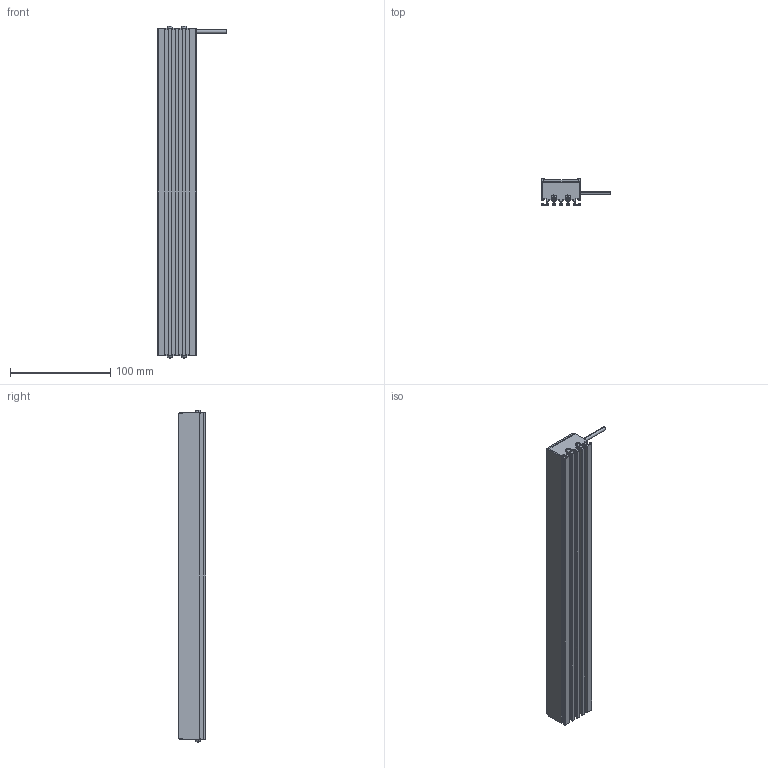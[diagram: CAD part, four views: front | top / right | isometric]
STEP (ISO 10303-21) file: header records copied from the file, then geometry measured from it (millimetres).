
FILE_DESCRIPTION((''),'2;1');
FILE_NAME('MV-LLDS-327-38_ASM','2020-12-30T',('Administrator'),(''),'PRO/ENGINEER BY PARAMETRIC TECHNOLOGY CORPORATION, 2010100','PRO/ENGINEER BY PARAMETRIC TECHNOLOGY CORPORATION, 2010100','');
FILE_SCHEMA(('CONFIG_CONTROL_DESIGN'));
Length unit declared in the file: millimetre
Products named in the file (3): BL-6_5_; M3-5_3; MV-LLDS-327-38_ASM
Assembly tree (5 placements, depth 2):
  MV-LLDS-327-38_ASM
    BL-6_5_
    M3-5_3  x4
Bounding box: 68 x 27 x 331.68 mm (x, y, z)
Volume: 273689.3 mm3; surface area: 80099.2 mm2
Topology: 5 solids, 13 shells, 349 faces, 934 edges, 604 vertices
Faces by surface type: plane 223, cylinder 78, cone 16, bspline 16, torus 8, sphere 8
Entity records: 8211 total; most frequent: CARTESIAN_POINT 1703, ORIENTED_EDGE 1338, DIRECTION 1310, EDGE_CURVE 679, VECTOR 514, LINE 514, VERTEX_POINT 445, AXIS2_PLACEMENT_3D 398
